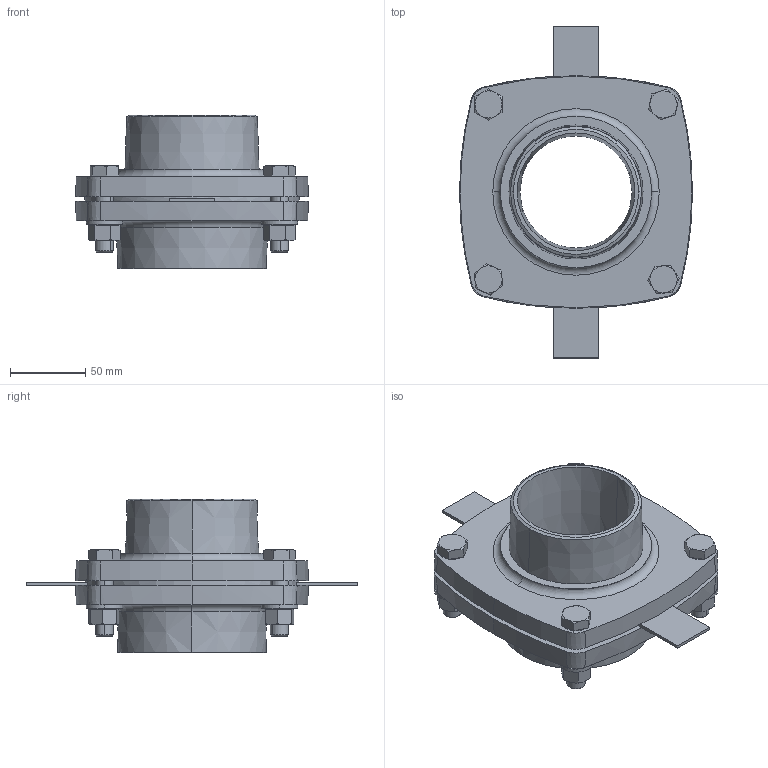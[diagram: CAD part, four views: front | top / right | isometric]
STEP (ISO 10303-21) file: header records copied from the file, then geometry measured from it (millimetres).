
FILE_DESCRIPTION (( 'STEP AP214' ), '1' );
FILE_NAME ('KP_F16-90MF.STEP', '2014-01-20T15:34:21', ( 'robinj' ), ( 'Microsoft' ), 'SwSTEP 2.0', 'SolidWorks 2014', '' );
FILE_SCHEMA (( 'AUTOMOTIVE_DESIGN' ));
Length unit declared in the file: millimetre
Products named in the file (1): KP_F16-90MF
Bounding box: 154.3 x 220 x 102 mm (x, y, z)
Volume: 641385.8 mm3; surface area: 125860.7 mm2
Topology: 1 solids, 1 shells, 352 faces, 778 edges, 458 vertices
Faces by surface type: plane 148, cone 124, cylinder 68, torus 12
Entity records: 11270 total; most frequent: CARTESIAN_POINT 2149, DIRECTION 1758, ORIENTED_EDGE 1556, EDGE_CURVE 778, AXIS2_PLACEMENT_3D 723, VERTEX_POINT 458, EDGE_LOOP 392, CIRCLE 370
